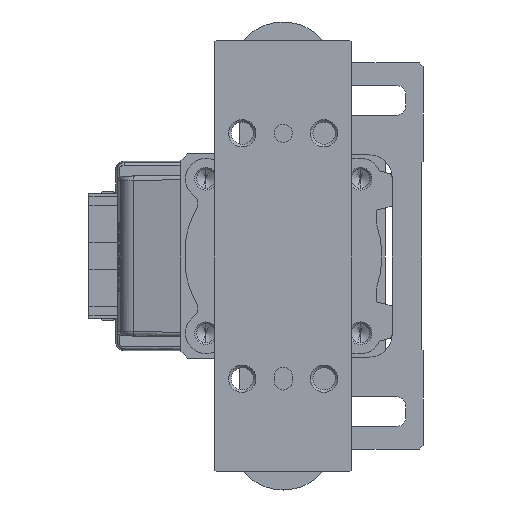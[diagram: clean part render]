
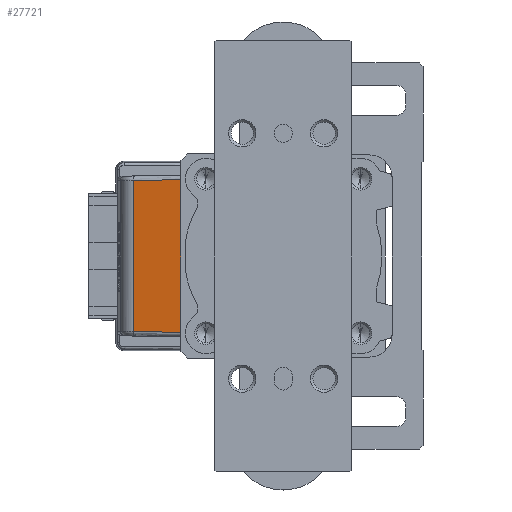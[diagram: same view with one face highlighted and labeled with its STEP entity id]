
A CAD part, left-side view. The second image highlights one B-rep face of the part: STEP entity #27721.
In plain terms, the highlighted planar face has unit normal (-0.985, 0.174, 0) as drawn and (0, 0.174, 0.985) by its records, which use the part's own axes.
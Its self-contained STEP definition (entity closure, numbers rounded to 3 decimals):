
#2252 = LINE ( 'NONE', #36411, #12679 ) ;
#3540 = EDGE_CURVE ( 'NONE', #34224, #35357, #5080, .T. ) ;
#5050 = CARTESIAN_POINT ( 'NONE',  ( 16.617, 32.922, -40.379 ) ) ;
#5080 = LINE ( 'NONE', #20745, #37255 ) ;
#6627 = VERTEX_POINT ( 'NONE', #5050 ) ;
#7115 = CARTESIAN_POINT ( 'NONE',  ( 16.617, 32.905, -40.376 ) ) ;
#7464 = AXIS2_PLACEMENT_3D ( 'NONE', #23991, #36848, #11235 ) ;
#8970 = VERTEX_POINT ( 'NONE', #16567 ) ;
#11235 = DIRECTION ( 'NONE',  ( 1., 0., 0. ) ) ;
#11443 = PLANE ( 'NONE',  #7464 ) ;
#12679 = VECTOR ( 'NONE', #14739, 1000. ) ;
#14156 = ORIENTED_EDGE ( 'NONE', *, *, #30261, .T. ) ;
#14739 = DIRECTION ( 'NONE',  ( -0.017, -0.985, 0.174 ) ) ;
#15502 = VECTOR ( 'NONE', #25702, 1000. ) ;
#15574 = ORIENTED_EDGE ( 'NONE', *, *, #25951, .T. ) ;
#16567 = CARTESIAN_POINT ( 'NONE',  ( -16.617, 32.922, -40.379 ) ) ;
#16709 = ORIENTED_EDGE ( 'NONE', *, *, #3540, .T. ) ;
#18002 = DIRECTION ( 'NONE',  ( 1., 0., 0. ) ) ;
#18810 = LINE ( 'NONE', #28174, #25652 ) ;
#20745 = CARTESIAN_POINT ( 'NONE',  ( 0., 21., -38.277 ) ) ;
#21260 = FACE_OUTER_BOUND ( 'NONE', #30695, .T. ) ;
#21731 = EDGE_CURVE ( 'NONE', #8970, #34224, #2252, .T. ) ;
#23991 = CARTESIAN_POINT ( 'NONE',  ( 0., 21.26, -38.323 ) ) ;
#25652 = VECTOR ( 'NONE', #31480, 1000. ) ;
#25702 = DIRECTION ( 'NONE',  ( -0.017, 0.985, -0.174 ) ) ;
#25951 = EDGE_CURVE ( 'NONE', #35357, #6627, #26109, .T. ) ;
#26109 = LINE ( 'NONE', #7115, #15502 ) ;
#27721 = ADVANCED_FACE ( 'NONE', ( #21260 ), #11443, .F. ) ;
#28174 = CARTESIAN_POINT ( 'NONE',  ( -17.568, 32.922, -40.379 ) ) ;
#30261 = EDGE_CURVE ( 'NONE', #6627, #8970, #18810, .T. ) ;
#30695 = EDGE_LOOP ( 'NONE', ( #14156, #33526, #16709, #15574 ) ) ;
#30874 = CARTESIAN_POINT ( 'NONE',  ( -16.825, 21., -38.277 ) ) ;
#31480 = DIRECTION ( 'NONE',  ( -1., 0., 0. ) ) ;
#33526 = ORIENTED_EDGE ( 'NONE', *, *, #21731, .T. ) ;
#33970 = CARTESIAN_POINT ( 'NONE',  ( 16.825, 21., -38.277 ) ) ;
#34224 = VERTEX_POINT ( 'NONE', #30874 ) ;
#35357 = VERTEX_POINT ( 'NONE', #33970 ) ;
#36411 = CARTESIAN_POINT ( 'NONE',  ( -16.825, 20.983, -38.274 ) ) ;
#36848 = DIRECTION ( 'NONE',  ( 0., -0.174, -0.985 ) ) ;
#37255 = VECTOR ( 'NONE', #18002, 1000. ) ;
